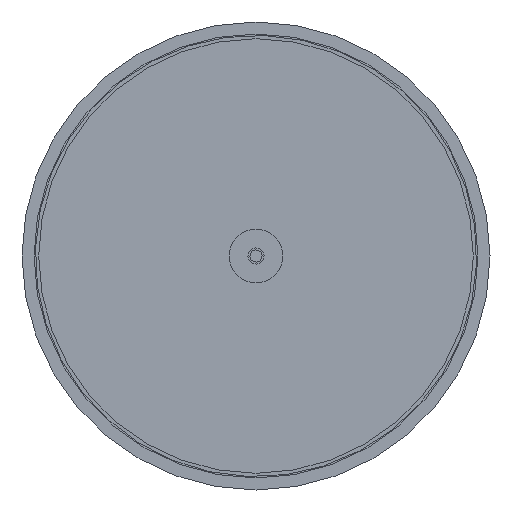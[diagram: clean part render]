
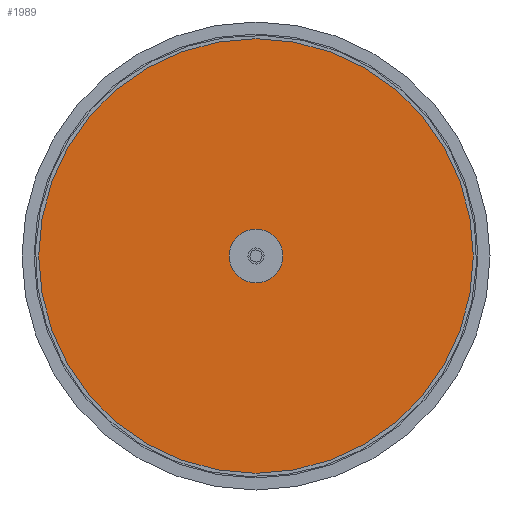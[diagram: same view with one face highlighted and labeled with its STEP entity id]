
A CAD part, front view. The second image highlights one B-rep face of the part: STEP entity #1989.
In plain terms, the highlighted planar face has unit normal (0, -1, 0).
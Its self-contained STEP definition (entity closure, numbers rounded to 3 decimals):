
#95 = CIRCLE ( 'NONE', #960, 5.25 ) ;
#282 = CARTESIAN_POINT ( 'NONE',  ( 0., 0., 0. ) ) ;
#311 = CARTESIAN_POINT ( 'NONE',  ( 0., 0., 5.25 ) ) ;
#960 = AXIS2_PLACEMENT_3D ( 'NONE', #6499, #1155, #4901 ) ;
#1068 = DIRECTION ( 'NONE',  ( 0., 1., 0. ) ) ;
#1155 = DIRECTION ( 'NONE',  ( 0., 1., 0. ) ) ;
#1560 = FACE_OUTER_BOUND ( 'NONE', #8995, .T. ) ;
#1620 = VERTEX_POINT ( 'NONE', #8031 ) ;
#1890 = AXIS2_PLACEMENT_3D ( 'NONE', #282, #1068, #3312 ) ;
#1989 = ADVANCED_FACE ( 'NONE', ( #1560, #7735 ), #4802, .F. ) ;
#2046 = AXIS2_PLACEMENT_3D ( 'NONE', #7134, #4099, #8555 ) ;
#2085 = AXIS2_PLACEMENT_3D ( 'NONE', #8161, #9079, #5298 ) ;
#2155 = CARTESIAN_POINT ( 'NONE',  ( 0., 0., 0. ) ) ;
#2400 = CARTESIAN_POINT ( 'NONE',  ( 0., 0., 165. ) ) ;
#2557 = EDGE_CURVE ( 'NONE', #3882, #1620, #95, .T. ) ;
#2699 = AXIS2_PLACEMENT_3D ( 'NONE', #2155, #9632, #7349 ) ;
#2791 = VERTEX_POINT ( 'NONE', #2400 ) ;
#2931 = EDGE_LOOP ( 'NONE', ( #8246, #5952 ) ) ;
#3098 = VERTEX_POINT ( 'NONE', #4134 ) ;
#3312 = DIRECTION ( 'NONE',  ( 0., 0., 1. ) ) ;
#3882 = VERTEX_POINT ( 'NONE', #311 ) ;
#3938 = CIRCLE ( 'NONE', #2085, 165. ) ;
#4099 = DIRECTION ( 'NONE',  ( 0., 1., 0. ) ) ;
#4134 = CARTESIAN_POINT ( 'NONE',  ( 0., 0., -165. ) ) ;
#4142 = CIRCLE ( 'NONE', #1890, 165. ) ;
#4780 = ORIENTED_EDGE ( 'NONE', *, *, #7664, .F. ) ;
#4802 = PLANE ( 'NONE',  #2046 ) ;
#4812 = ORIENTED_EDGE ( 'NONE', *, *, #7236, .F. ) ;
#4901 = DIRECTION ( 'NONE',  ( 0., 0., 1. ) ) ;
#4918 = CIRCLE ( 'NONE', #2699, 5.25 ) ;
#5298 = DIRECTION ( 'NONE',  ( 0., 0., 1. ) ) ;
#5461 = EDGE_CURVE ( 'NONE', #1620, #3882, #4918, .T. ) ;
#5952 = ORIENTED_EDGE ( 'NONE', *, *, #2557, .T. ) ;
#6499 = CARTESIAN_POINT ( 'NONE',  ( 0., 0., 0. ) ) ;
#7134 = CARTESIAN_POINT ( 'NONE',  ( 0., 0., 0. ) ) ;
#7236 = EDGE_CURVE ( 'NONE', #3098, #2791, #3938, .T. ) ;
#7349 = DIRECTION ( 'NONE',  ( 0., 0., 1. ) ) ;
#7664 = EDGE_CURVE ( 'NONE', #2791, #3098, #4142, .T. ) ;
#7735 = FACE_BOUND ( 'NONE', #2931, .T. ) ;
#8031 = CARTESIAN_POINT ( 'NONE',  ( 0., 0., -5.25 ) ) ;
#8161 = CARTESIAN_POINT ( 'NONE',  ( 0., 0., 0. ) ) ;
#8246 = ORIENTED_EDGE ( 'NONE', *, *, #5461, .T. ) ;
#8555 = DIRECTION ( 'NONE',  ( 0., 0., 1. ) ) ;
#8995 = EDGE_LOOP ( 'NONE', ( #4812, #4780 ) ) ;
#9079 = DIRECTION ( 'NONE',  ( 0., 1., 0. ) ) ;
#9632 = DIRECTION ( 'NONE',  ( 0., 1., 0. ) ) ;
